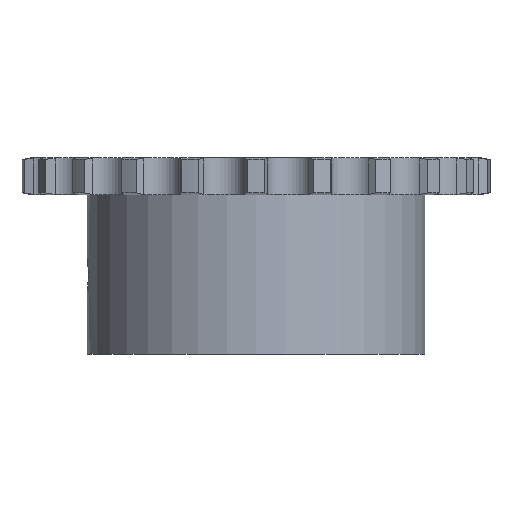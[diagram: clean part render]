
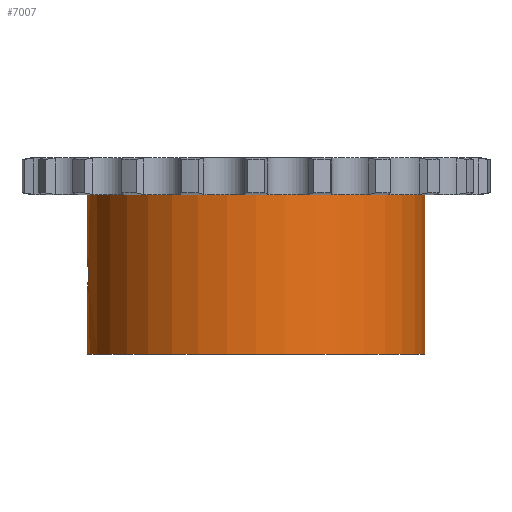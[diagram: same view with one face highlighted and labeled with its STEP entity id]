
A CAD part, front view. The second image highlights one B-rep face of the part: STEP entity #7007.
In plain terms, the highlighted cylindrical face has radius 24 mm (diameter 48 mm), a partial arc.
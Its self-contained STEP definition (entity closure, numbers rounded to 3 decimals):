
#1225=CARTESIAN_POINT('',(0.,0.,-2.65));
#1226=DIRECTION('',(0.,0.,1.));
#1227=DIRECTION('',(-1.,0.,0.));
#1228=AXIS2_PLACEMENT_3D('',#1225,#1226,#1227);
#3562=CARTESIAN_POINT('',(-24.,0.,
-11.5));
#3583=DIRECTION('',(0.,0.,1.));
#3584=VECTOR('',#3583,22.7);
#3585=CARTESIAN_POINT('',(24.,0.,-25.35));
#3586=LINE('',#3585,#3584);
#3699=CARTESIAN_POINT('',(0.,0.,-25.35));
#3700=DIRECTION('',(0.,0.,-1.));
#3701=DIRECTION('',(1.,0.,0.));
#3702=AXIS2_PLACEMENT_3D('',#3699,#3700,#3701);
#3728=CARTESIAN_POINT('',(-24.,0.,
-11.5));
#3729=CARTESIAN_POINT('',(-24.,-0.15,
-11.5));
#3730=CARTESIAN_POINT('',(-23.997,-0.444,
-11.526));
#3731=CARTESIAN_POINT('',(-23.985,-0.882,
-11.641));
#3732=CARTESIAN_POINT('',(-23.966,-1.288,
-11.83));
#3733=CARTESIAN_POINT('',(-23.944,-1.653,
-12.083));
#3734=CARTESIAN_POINT('',(-23.92,-1.968,
-12.397));
#3735=CARTESIAN_POINT('',(-23.897,-2.225,
-12.763));
#3736=CARTESIAN_POINT('',(-23.879,-2.41,
-13.165));
#3737=CARTESIAN_POINT('',(-23.867,-2.519,
-13.586));
#3738=CARTESIAN_POINT('',(-23.865,-2.542,
-13.862));
#3739=CARTESIAN_POINT('',(-23.865,-2.542,
-14.));
#3744=DIRECTION('',(0.,0.,1.));
#3745=VECTOR('',#3744,8.85);
#3746=CARTESIAN_POINT('',(-24.,0.,
-11.5));
#3747=LINE('',#3746,#3745);
#3751=DIRECTION('',(0.,0.,1.));
#3752=VECTOR('',#3751,8.85);
#3753=CARTESIAN_POINT('',(-24.,0.,-25.35));
#3754=LINE('',#3753,#3752);
#3758=CARTESIAN_POINT('',(-23.865,-2.542,
-14.));
#3759=CARTESIAN_POINT('',(-23.865,-2.543,
-14.138));
#3760=CARTESIAN_POINT('',(-23.867,-2.519,
-14.414));
#3761=CARTESIAN_POINT('',(-23.879,-2.411,
-14.834));
#3762=CARTESIAN_POINT('',(-23.897,-2.225,
-15.235));
#3763=CARTESIAN_POINT('',(-23.92,-1.969,
-15.602));
#3764=CARTESIAN_POINT('',(-23.944,-1.653,
-15.916));
#3765=CARTESIAN_POINT('',(-23.966,-1.288,
-16.17));
#3766=CARTESIAN_POINT('',(-23.985,-0.883,
-16.359));
#3767=CARTESIAN_POINT('',(-23.997,-0.445,
-16.474));
#3768=CARTESIAN_POINT('',(-24.,-0.15,
-16.5));
#3769=CARTESIAN_POINT('',(-24.,0.,
-16.5));
#4141=CARTESIAN_POINT('',(-24.,0.,-25.35));
#4142=CARTESIAN_POINT('',(24.,0.,-25.35));
#4143=VERTEX_POINT('',#4141);
#4144=VERTEX_POINT('',#4142);
#4145=CARTESIAN_POINT('',(24.,0.,-2.65));
#4146=VERTEX_POINT('',#4145);
#4147=CARTESIAN_POINT('',(-24.,0.,-2.65));
#4148=VERTEX_POINT('',#4147);
#4394=VERTEX_POINT('',#3562);
#4397=VERTEX_POINT('',#3739);
#4399=VERTEX_POINT('',#3769);
#6991=CARTESIAN_POINT('',(0.,0.,2.65));
#6992=DIRECTION('',(0.,0.,1.));
#6993=DIRECTION('',(1.,0.,0.));
#6994=AXIS2_PLACEMENT_3D('',#6991,#6992,#6993);
#6995=CYLINDRICAL_SURFACE('',#6994,24.);
#6997=ORIENTED_EDGE('',*,*,#6996,.F.);
#6998=ORIENTED_EDGE('',*,*,#6725,.T.);
#6999=ORIENTED_EDGE('',*,*,#5668,.T.);
#7000=ORIENTED_EDGE('',*,*,#6722,.F.);
#7001=ORIENTED_EDGE('',*,*,#6977,.T.);
#7002=ORIENTED_EDGE('',*,*,#6718,.T.);
#7004=ORIENTED_EDGE('',*,*,#7003,.F.);
#7005=EDGE_LOOP('',(#6997,#6998,#6999,#7000,#7001,#7002,#7004));
#7006=FACE_OUTER_BOUND('',#7005,.F.);
#7007=ADVANCED_FACE('',(#7006),#6995,.T.);
#1229=CIRCLE('',#1228,24.);
#3703=CIRCLE('',#3702,24.);
#3740=B_SPLINE_CURVE_WITH_KNOTS('',3,(#3728,#3729,#3730,#3731,#3732,#3733,#3734,
#3735,#3736,#3737,#3738,#3739),.UNSPECIFIED.,.F.,.F.,(4,1,1,1,1,1,1,1,1,4),
(0.,0.111,0.222,0.333,0.444,
0.556,0.667,0.778,0.889,1.),
.UNSPECIFIED.);
#3770=B_SPLINE_CURVE_WITH_KNOTS('',3,(#3758,#3759,#3760,#3761,#3762,#3763,#3764,
#3765,#3766,#3767,#3768,#3769),.UNSPECIFIED.,.F.,.F.,(4,1,1,1,1,1,1,1,1,4),
(0.,0.111,0.222,0.333,0.444,
0.556,0.667,0.778,0.889,1.),
.UNSPECIFIED.);
#5668=EDGE_CURVE('',#4148,#4146,#1229,.T.);
#6718=EDGE_CURVE('',#4143,#4399,#3754,.T.);
#6722=EDGE_CURVE('',#4144,#4146,#3586,.T.);
#6725=EDGE_CURVE('',#4394,#4148,#3747,.T.);
#6977=EDGE_CURVE('',#4144,#4143,#3703,.T.);
#6996=EDGE_CURVE('',#4394,#4397,#3740,.T.);
#7003=EDGE_CURVE('',#4397,#4399,#3770,.T.);
